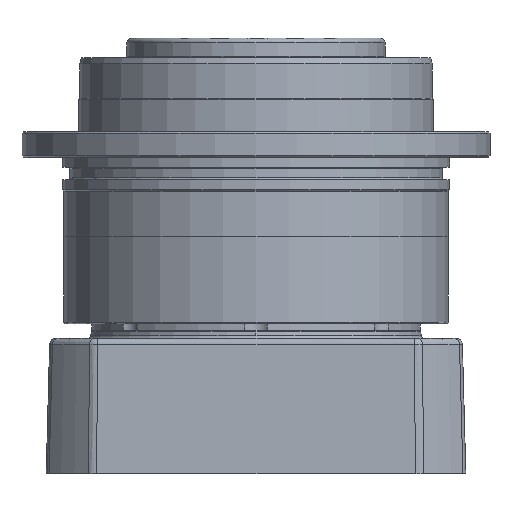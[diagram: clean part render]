
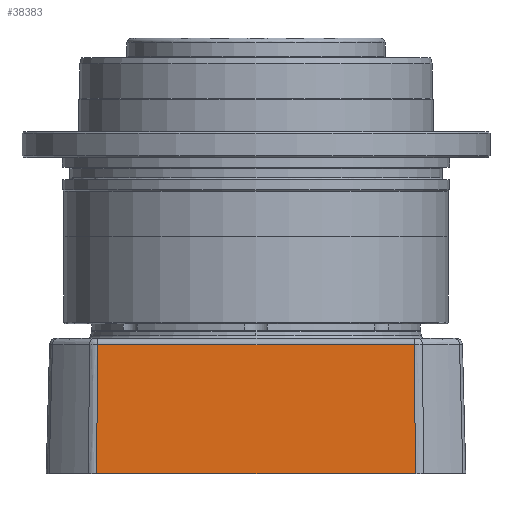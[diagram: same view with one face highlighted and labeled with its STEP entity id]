
A CAD part, front view. The second image highlights one B-rep face of the part: STEP entity #38383.
In plain terms, the highlighted planar face has unit normal (0, -1, 0.026) as drawn and (-0.026, -1, 0) by its records, which use the part's own axes.
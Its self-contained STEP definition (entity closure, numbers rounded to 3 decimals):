
#485 = LINE ( 'NONE', #1356, #28589 ) ;
#1356 = CARTESIAN_POINT ( 'NONE',  ( -46806.406, -63.951, 50.806 ) ) ;
#1626 = EDGE_LOOP ( 'NONE', ( #35008, #27889, #9821, #20101 ) ) ;
#2363 = EDGE_CURVE ( 'NONE', #7611, #7040, #23933, .T. ) ;
#6292 = VERTEX_POINT ( 'NONE', #6973 ) ;
#6973 = CARTESIAN_POINT ( 'NONE',  ( -46766.354, -65., 49.409 ) ) ;
#7040 = VERTEX_POINT ( 'NONE', #22636 ) ;
#7611 = VERTEX_POINT ( 'NONE', #31970 ) ;
#9821 = ORIENTED_EDGE ( 'NONE', *, *, #49255, .F. ) ;
#15721 = VERTEX_POINT ( 'NONE', #45515 ) ;
#18428 = LINE ( 'NONE', #46217, #38683 ) ;
#19698 = DIRECTION ( 'NONE',  ( 0.026, 1., 0. ) ) ;
#20101 = ORIENTED_EDGE ( 'NONE', *, *, #2363, .F. ) ;
#22636 = CARTESIAN_POINT ( 'NONE',  ( -46806.406, -63.951, -49.037 ) ) ;
#23933 = LINE ( 'NONE', #41706, #46644 ) ;
#27144 = DIRECTION ( 'NONE',  ( 1., -0.026, 0.009 ) ) ;
#27227 = PLANE ( 'NONE',  #44713 ) ;
#27889 = ORIENTED_EDGE ( 'NONE', *, *, #32305, .F. ) ;
#28589 = VECTOR ( 'NONE', #35759, 1000. ) ;
#31970 = CARTESIAN_POINT ( 'NONE',  ( -46766.354, -65., -49.409 ) ) ;
#32305 = EDGE_CURVE ( 'NONE', #15721, #6292, #35513, .T. ) ;
#34131 = CARTESIAN_POINT ( 'NONE',  ( -46806.406, -63.951, 49.037 ) ) ;
#34870 = CARTESIAN_POINT ( 'NONE',  ( -46766.354, -65., 50.806 ) ) ;
#35008 = ORIENTED_EDGE ( 'NONE', *, *, #35115, .F. ) ;
#35115 = EDGE_CURVE ( 'NONE', #6292, #7611, #18428, .T. ) ;
#35513 = LINE ( 'NONE', #34131, #36725 ) ;
#35759 = DIRECTION ( 'NONE',  ( 0., 0., 1. ) ) ;
#36725 = VECTOR ( 'NONE', #27144, 1000. ) ;
#38383 = ADVANCED_FACE ( 'NONE', ( #40240 ), #27227, .F. ) ;
#38683 = VECTOR ( 'NONE', #42350, 1000. ) ;
#40240 = FACE_OUTER_BOUND ( 'NONE', #1626, .T. ) ;
#41451 = DIRECTION ( 'NONE',  ( -1., 0.026, 0.009 ) ) ;
#41706 = CARTESIAN_POINT ( 'NONE',  ( -46766.354, -65., -49.409 ) ) ;
#42350 = DIRECTION ( 'NONE',  ( 0., 0., -1. ) ) ;
#44713 = AXIS2_PLACEMENT_3D ( 'NONE', #34870, #19698, #46366 ) ;
#45515 = CARTESIAN_POINT ( 'NONE',  ( -46806.406, -63.951, 49.037 ) ) ;
#46217 = CARTESIAN_POINT ( 'NONE',  ( -46766.354, -65., 50.806 ) ) ;
#46366 = DIRECTION ( 'NONE',  ( -1., 0.026, 0. ) ) ;
#46644 = VECTOR ( 'NONE', #41451, 1000. ) ;
#49255 = EDGE_CURVE ( 'NONE', #7040, #15721, #485, .T. ) ;
